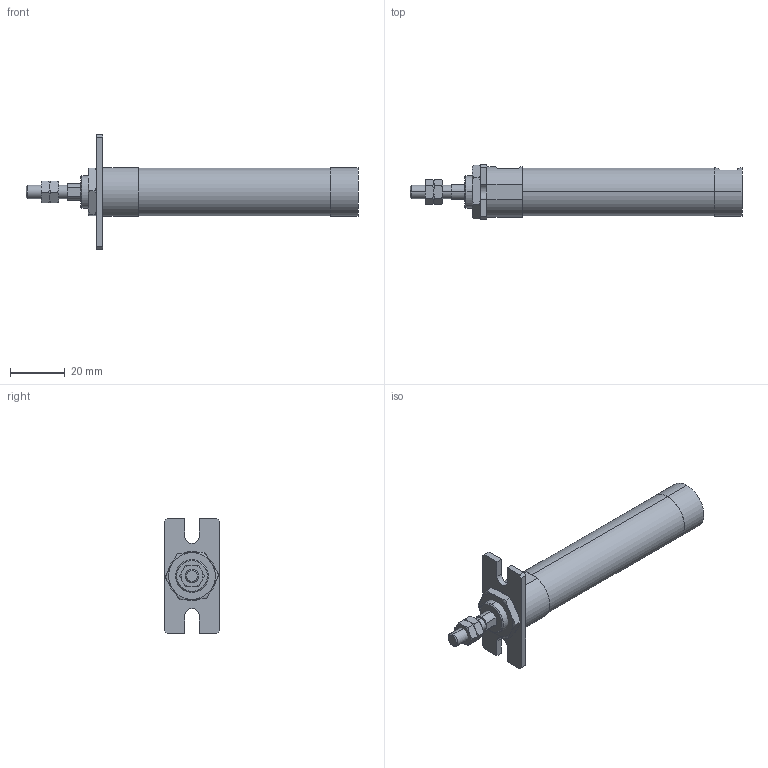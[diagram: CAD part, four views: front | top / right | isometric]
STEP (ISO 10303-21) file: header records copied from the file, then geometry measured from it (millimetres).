
FILE_DESCRIPTION (( 'STEP AP203' ), '1' );
FILE_NAME ('ZGU2-16-45-A.STEP', '2016-03-31T00:59:56', ( '' ), ( '' ), 'SwSTEP 2.0', 'SolidWorks 2014', '' );
FILE_SCHEMA (( 'CONFIG_CONTROL_DESIGN' ));
Length unit declared in the file: millimetre
Products named in the file (5): ZGU2-16-45-A; Z-16-A; ZGU2-16-45
Assembly tree (5 placements, depth 2):
  ZGU2-16-45-A
    ZGU2-16-45
    (unnamed)  x2
    (unnamed)
    Z-16-A
Bounding box: 121 x 20 x 42 mm (x, y, z)
Volume: 25438.3 mm3; surface area: 8984.5 mm2
Topology: 5 solids, 5 shells, 129 faces, 292 edges, 178 vertices
Faces by surface type: plane 57, torus 36, cylinder 28, cone 8
Entity records: 3825 total; most frequent: CARTESIAN_POINT 917, DIRECTION 498, ORIENTED_EDGE 480, EDGE_CURVE 240, AXIS2_PLACEMENT_3D 195, VERTEX_POINT 150, EDGE_LOOP 122, VECTOR 108
